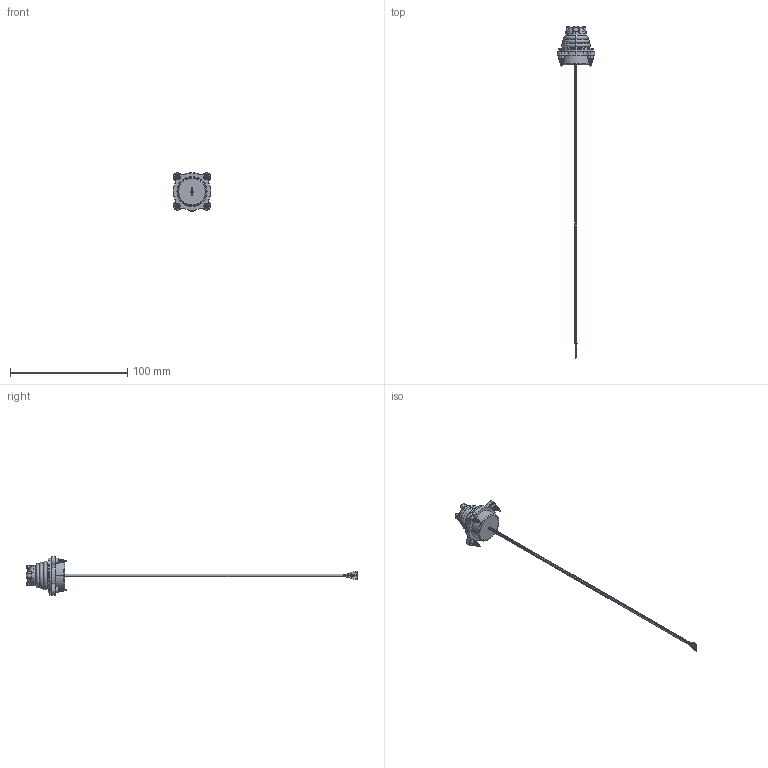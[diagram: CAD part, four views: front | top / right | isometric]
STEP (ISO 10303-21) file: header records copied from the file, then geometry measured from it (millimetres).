
FILE_DESCRIPTION(('FreeCAD Model'),'2;1');
FILE_NAME('O:/12-Produkte/12-10 PM/12-10-10 JOY/01_Produktinfo/TRY14/Zeichnungen/TRY14 2 7 1 A 1 1 0 2 .STEP', '2020-11-17T11:27:00',('Author'),(''), 'Open CASCADE STEP processor 7.3','FreeCAD','Unknown');
FILE_SCHEMA(('AUTOMOTIVE_DESIGN { 1 0 10303 214 1 1 1 1 }'));
Products named in the file (1): TRY14_2_7_1_A_1_1_0_2
Bounding box: 32 x 283.14 x 32.8 mm (x, y, z)
Surface area: 8460.7 mm2 (no closed solid volume)
Topology: 0 solids, 18 shells, 455 faces, 4027 edges, 10973 vertices
Faces by surface type: cylinder 169, bspline 126, cone 66, plane 50, torus 40, sphere 4
Entity records: 91883 total; most frequent: CARTESIAN_POINT 55360, DIRECTION 5583, GEOMETRIC_CURVE_SET 2489, ORIENTED_EDGE 2464, PCURVE 2464, DEFINITIONAL_REPRESENTATION 2464, TRIMMED_CURVE 2464, LINE 2457
